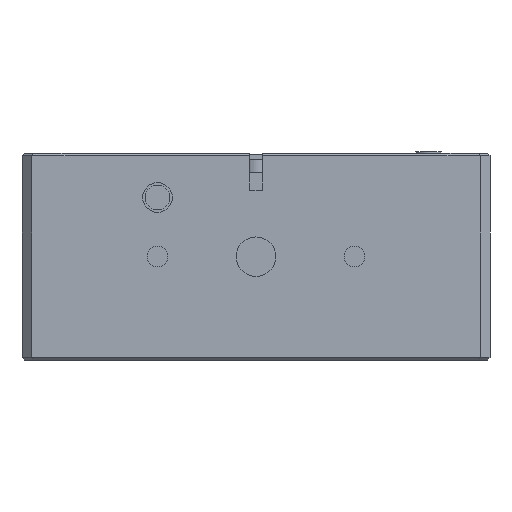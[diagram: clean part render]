
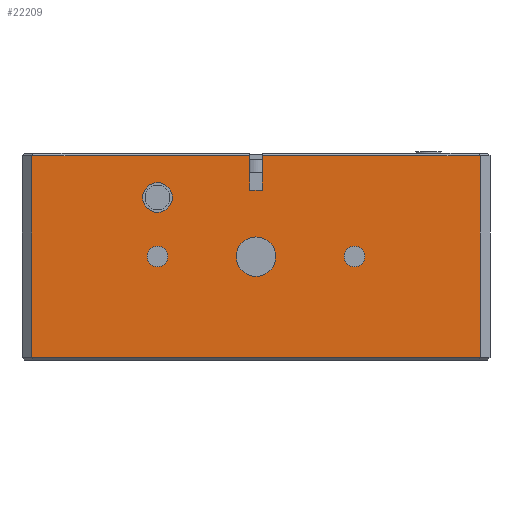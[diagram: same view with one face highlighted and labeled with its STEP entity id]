
A CAD part, front view. The second image highlights one B-rep face of the part: STEP entity #22209.
In plain terms, the highlighted planar face has unit normal (0, -1, 0).
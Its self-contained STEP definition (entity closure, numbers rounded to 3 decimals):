
#4 = CARTESIAN_POINT ( 'NONE',  ( -42.534, -51.533, 77.9 ) ) ;
#108 = CARTESIAN_POINT ( 'NONE',  ( -23.784, -51.533, 93.5 ) ) ;
#178 = CARTESIAN_POINT ( 'NONE',  ( -2.534, -51.533, 77.9 ) ) ;
#205 = FACE_BOUND ( 'NONE', #22613, .T. ) ;
#236 = VERTEX_POINT ( 'NONE', #2802 ) ;
#259 = CARTESIAN_POINT ( 'NONE',  ( -23.784, -51.533, 93.5 ) ) ;
#650 = VERTEX_POINT ( 'NONE', #6245 ) ;
#870 = ORIENTED_EDGE ( 'NONE', *, *, #8224, .T. ) ;
#1139 = VERTEX_POINT ( 'NONE', #178 ) ;
#1547 = CIRCLE ( 'NONE', #22503, 4. ) ;
#1654 = EDGE_CURVE ( 'NONE', #2046, #14527, #18730, .T. ) ;
#1721 = CARTESIAN_POINT ( 'NONE',  ( -23.784, -51.533, 100.5 ) ) ;
#1798 = CARTESIAN_POINT ( 'NONE',  ( -42.534, -51.533, 80. ) ) ;
#1908 = CARTESIAN_POINT ( 'NONE',  ( -70.034, -51.533, 59.5 ) ) ;
#2046 = VERTEX_POINT ( 'NONE', #8457 ) ;
#2339 = AXIS2_PLACEMENT_3D ( 'NONE', #8589, #14965, #16944 ) ;
#2733 = ORIENTED_EDGE ( 'NONE', *, *, #14350, .F. ) ;
#2802 = CARTESIAN_POINT ( 'NONE',  ( -42.534, -51.533, 89. ) ) ;
#3263 = ORIENTED_EDGE ( 'NONE', *, *, #11131, .T. ) ;
#3513 = DIRECTION ( 'NONE',  ( 0., 0., -1. ) ) ;
#3775 = EDGE_LOOP ( 'NONE', ( #5837, #12987, #7582, #870, #5597, #5849, #3263, #3857 ) ) ;
#3785 = CARTESIAN_POINT ( 'NONE',  ( -42.534, -51.533, 80. ) ) ;
#3857 = ORIENTED_EDGE ( 'NONE', *, *, #26736, .T. ) ;
#4156 = LINE ( 'NONE', #1908, #25947 ) ;
#4625 = ORIENTED_EDGE ( 'NONE', *, *, #21632, .F. ) ;
#4705 = EDGE_LOOP ( 'NONE', ( #4625, #17978 ) ) ;
#4883 = DIRECTION ( 'NONE',  ( 0., 0., -1. ) ) ;
#4917 = VECTOR ( 'NONE', #25011, 1000. ) ;
#4926 = DIRECTION ( 'NONE',  ( 0., 0., -1. ) ) ;
#5012 = DIRECTION ( 'NONE',  ( 0., 1., 0. ) ) ;
#5420 = VECTOR ( 'NONE', #20697, 1000. ) ;
#5597 = ORIENTED_EDGE ( 'NONE', *, *, #18283, .T. ) ;
#5746 = DIRECTION ( 'NONE',  ( 0., 0., -1. ) ) ;
#5837 = ORIENTED_EDGE ( 'NONE', *, *, #1654, .T. ) ;
#5849 = ORIENTED_EDGE ( 'NONE', *, *, #11790, .T. ) ;
#5936 = EDGE_CURVE ( 'NONE', #21627, #9269, #25570, .T. ) ;
#6245 = CARTESIAN_POINT ( 'NONE',  ( -68.034, -51.533, 100.5 ) ) ;
#6412 = LINE ( 'NONE', #259, #24285 ) ;
#6612 = AXIS2_PLACEMENT_3D ( 'NONE', #1798, #11991, #3513 ) ;
#6722 = AXIS2_PLACEMENT_3D ( 'NONE', #7081, #19610, #4883 ) ;
#6777 = CIRCLE ( 'NONE', #6612, 2.1 ) ;
#7006 = DIRECTION ( 'NONE',  ( 0., 0., 1. ) ) ;
#7081 = CARTESIAN_POINT ( 'NONE',  ( -42.534, -51.533, 92. ) ) ;
#7141 = DIRECTION ( 'NONE',  ( 0., 0., -1. ) ) ;
#7582 = ORIENTED_EDGE ( 'NONE', *, *, #5936, .F. ) ;
#8224 = EDGE_CURVE ( 'NONE', #21627, #18522, #6412, .T. ) ;
#8252 = AXIS2_PLACEMENT_3D ( 'NONE', #21748, #5012, #9295 ) ;
#8260 = CARTESIAN_POINT ( 'NONE',  ( -2.534, -51.533, 80. ) ) ;
#8457 = CARTESIAN_POINT ( 'NONE',  ( 22.966, -51.533, 59.5 ) ) ;
#8589 = CARTESIAN_POINT ( 'NONE',  ( -2.534, -51.533, 80. ) ) ;
#8636 = LINE ( 'NONE', #23354, #16415 ) ;
#9045 = CARTESIAN_POINT ( 'NONE',  ( -22.534, -51.533, 80. ) ) ;
#9083 = CIRCLE ( 'NONE', #17463, 2.1 ) ;
#9269 = VERTEX_POINT ( 'NONE', #12090 ) ;
#9295 = DIRECTION ( 'NONE',  ( 0., 0., 1. ) ) ;
#9439 = ORIENTED_EDGE ( 'NONE', *, *, #24604, .F. ) ;
#9814 = LINE ( 'NONE', #22927, #4917 ) ;
#10336 = VECTOR ( 'NONE', #13289, 1000. ) ;
#10472 = CIRCLE ( 'NONE', #2339, 2.1 ) ;
#11131 = EDGE_CURVE ( 'NONE', #650, #18471, #12425, .T. ) ;
#11167 = CARTESIAN_POINT ( 'NONE',  ( -21.284, -51.533, 93.5 ) ) ;
#11201 = DIRECTION ( 'NONE',  ( -1., 0., 0. ) ) ;
#11585 = FACE_BOUND ( 'NONE', #4705, .T. ) ;
#11790 = EDGE_CURVE ( 'NONE', #25048, #650, #9814, .T. ) ;
#11903 = FACE_BOUND ( 'NONE', #20971, .T. ) ;
#11991 = DIRECTION ( 'NONE',  ( 0., -1., 0. ) ) ;
#12090 = CARTESIAN_POINT ( 'NONE',  ( -21.284, -51.533, 100.5 ) ) ;
#12425 = LINE ( 'NONE', #20407, #24109 ) ;
#12574 = ORIENTED_EDGE ( 'NONE', *, *, #15952, .F. ) ;
#12654 = DIRECTION ( 'NONE',  ( 0., -1., 0. ) ) ;
#12787 = CIRCLE ( 'NONE', #14934, 2.1 ) ;
#12831 = VERTEX_POINT ( 'NONE', #24759 ) ;
#12879 = EDGE_LOOP ( 'NONE', ( #14172, #13367 ) ) ;
#12956 = DIRECTION ( 'NONE',  ( -1., 0., 0. ) ) ;
#12987 = ORIENTED_EDGE ( 'NONE', *, *, #19822, .T. ) ;
#13055 = EDGE_CURVE ( 'NONE', #21337, #14006, #9083, .T. ) ;
#13119 = CARTESIAN_POINT ( 'NONE',  ( 22.966, -51.533, 101. ) ) ;
#13289 = DIRECTION ( 'NONE',  ( 0., 0., 1. ) ) ;
#13367 = ORIENTED_EDGE ( 'NONE', *, *, #17356, .F. ) ;
#13425 = DIRECTION ( 'NONE',  ( 0., -1., 0. ) ) ;
#14006 = VERTEX_POINT ( 'NONE', #15796 ) ;
#14172 = ORIENTED_EDGE ( 'NONE', *, *, #13055, .F. ) ;
#14350 = EDGE_CURVE ( 'NONE', #14403, #1139, #10472, .T. ) ;
#14403 = VERTEX_POINT ( 'NONE', #23492 ) ;
#14513 = EDGE_CURVE ( 'NONE', #12831, #18659, #22536, .T. ) ;
#14515 = VECTOR ( 'NONE', #7006, 1000. ) ;
#14527 = VERTEX_POINT ( 'NONE', #23861 ) ;
#14934 = AXIS2_PLACEMENT_3D ( 'NONE', #8260, #12654, #18989 ) ;
#14965 = DIRECTION ( 'NONE',  ( 0., -1., 0. ) ) ;
#15796 = CARTESIAN_POINT ( 'NONE',  ( -42.534, -51.533, 82.1 ) ) ;
#15837 = DIRECTION ( 'NONE',  ( 0., -1., 0. ) ) ;
#15952 = EDGE_CURVE ( 'NONE', #17234, #236, #18250, .T. ) ;
#16415 = VECTOR ( 'NONE', #11201, 1000. ) ;
#16503 = CARTESIAN_POINT ( 'NONE',  ( -21.284, -51.533, 73.344 ) ) ;
#16944 = DIRECTION ( 'NONE',  ( 0., 0., -1. ) ) ;
#17234 = VERTEX_POINT ( 'NONE', #21970 ) ;
#17356 = EDGE_CURVE ( 'NONE', #14006, #21337, #6777, .T. ) ;
#17463 = AXIS2_PLACEMENT_3D ( 'NONE', #3785, #15837, #5746 ) ;
#17467 = PLANE ( 'NONE',  #8252 ) ;
#17539 = CARTESIAN_POINT ( 'NONE',  ( -23.784, -51.533, 73.344 ) ) ;
#17978 = ORIENTED_EDGE ( 'NONE', *, *, #14513, .F. ) ;
#18250 = CIRCLE ( 'NONE', #25025, 3. ) ;
#18283 = EDGE_CURVE ( 'NONE', #18522, #25048, #22673, .T. ) ;
#18387 = FACE_BOUND ( 'NONE', #12879, .T. ) ;
#18471 = VERTEX_POINT ( 'NONE', #24416 ) ;
#18522 = VERTEX_POINT ( 'NONE', #108 ) ;
#18659 = VERTEX_POINT ( 'NONE', #19232 ) ;
#18730 = LINE ( 'NONE', #13119, #14515 ) ;
#18989 = DIRECTION ( 'NONE',  ( 0., 0., -1. ) ) ;
#19232 = CARTESIAN_POINT ( 'NONE',  ( -22.534, -51.533, 76. ) ) ;
#19244 = CIRCLE ( 'NONE', #6722, 3. ) ;
#19301 = CARTESIAN_POINT ( 'NONE',  ( -42.534, -51.533, 92. ) ) ;
#19305 = CARTESIAN_POINT ( 'NONE',  ( -22.534, -51.533, 80. ) ) ;
#19610 = DIRECTION ( 'NONE',  ( 0., -1., 0. ) ) ;
#19822 = EDGE_CURVE ( 'NONE', #14527, #9269, #8636, .T. ) ;
#20407 = CARTESIAN_POINT ( 'NONE',  ( -68.034, -51.533, 101. ) ) ;
#20697 = DIRECTION ( 'NONE',  ( 0., 0., 1. ) ) ;
#20971 = EDGE_LOOP ( 'NONE', ( #23066, #12574 ) ) ;
#21337 = VERTEX_POINT ( 'NONE', #4 ) ;
#21399 = DIRECTION ( 'NONE',  ( 0., -1., 0. ) ) ;
#21478 = DIRECTION ( 'NONE',  ( 0., -1., 0. ) ) ;
#21627 = VERTEX_POINT ( 'NONE', #11167 ) ;
#21632 = EDGE_CURVE ( 'NONE', #18659, #12831, #1547, .T. ) ;
#21637 = FACE_OUTER_BOUND ( 'NONE', #3775, .T. ) ;
#21748 = CARTESIAN_POINT ( 'NONE',  ( -70.034, -51.533, 101. ) ) ;
#21970 = CARTESIAN_POINT ( 'NONE',  ( -42.534, -51.533, 95. ) ) ;
#22209 = ADVANCED_FACE ( 'NONE', ( #205, #18387, #11903, #11585, #21637 ), #17467, .F. ) ;
#22503 = AXIS2_PLACEMENT_3D ( 'NONE', #9045, #13425, #7141 ) ;
#22536 = CIRCLE ( 'NONE', #26868, 4. ) ;
#22613 = EDGE_LOOP ( 'NONE', ( #9439, #2733 ) ) ;
#22673 = LINE ( 'NONE', #17539, #10336 ) ;
#22927 = CARTESIAN_POINT ( 'NONE',  ( -68.034, -51.533, 100.5 ) ) ;
#23066 = ORIENTED_EDGE ( 'NONE', *, *, #23740, .F. ) ;
#23354 = CARTESIAN_POINT ( 'NONE',  ( -21.284, -51.533, 100.5 ) ) ;
#23492 = CARTESIAN_POINT ( 'NONE',  ( -2.534, -51.533, 82.1 ) ) ;
#23587 = DIRECTION ( 'NONE',  ( 0., 0., -1. ) ) ;
#23740 = EDGE_CURVE ( 'NONE', #236, #17234, #19244, .T. ) ;
#23861 = CARTESIAN_POINT ( 'NONE',  ( 22.966, -51.533, 100.5 ) ) ;
#24109 = VECTOR ( 'NONE', #26233, 1000. ) ;
#24285 = VECTOR ( 'NONE', #12956, 1000. ) ;
#24416 = CARTESIAN_POINT ( 'NONE',  ( -68.034, -51.533, 59.5 ) ) ;
#24604 = EDGE_CURVE ( 'NONE', #1139, #14403, #12787, .T. ) ;
#24759 = CARTESIAN_POINT ( 'NONE',  ( -22.534, -51.533, 84. ) ) ;
#25011 = DIRECTION ( 'NONE',  ( -1., 0., 0. ) ) ;
#25025 = AXIS2_PLACEMENT_3D ( 'NONE', #19301, #21478, #4926 ) ;
#25048 = VERTEX_POINT ( 'NONE', #1721 ) ;
#25570 = LINE ( 'NONE', #16503, #5420 ) ;
#25947 = VECTOR ( 'NONE', #26772, 1000. ) ;
#26233 = DIRECTION ( 'NONE',  ( 0., 0., -1. ) ) ;
#26736 = EDGE_CURVE ( 'NONE', #18471, #2046, #4156, .T. ) ;
#26772 = DIRECTION ( 'NONE',  ( 1., 0., 0. ) ) ;
#26868 = AXIS2_PLACEMENT_3D ( 'NONE', #19305, #21399, #23587 ) ;
